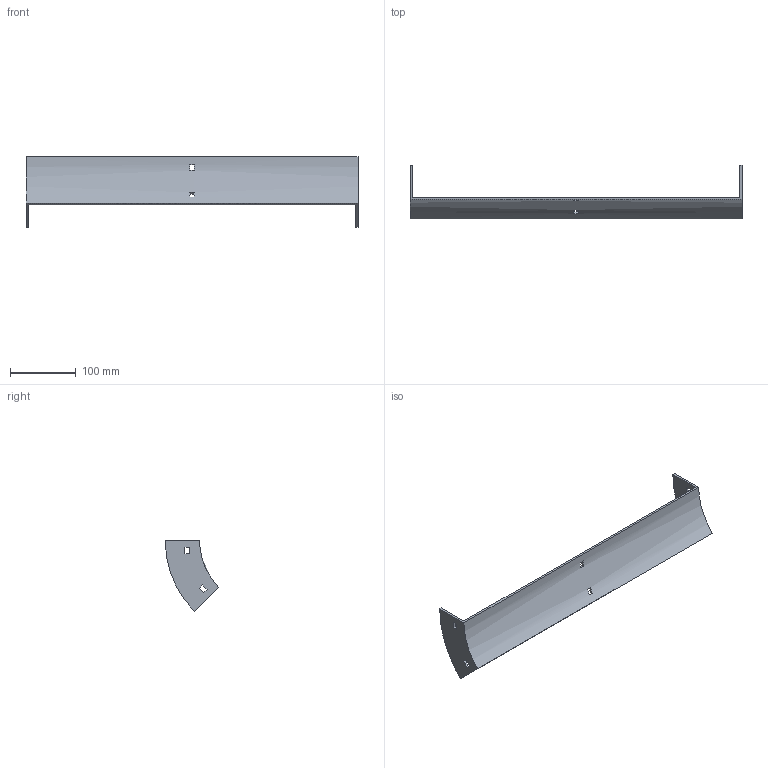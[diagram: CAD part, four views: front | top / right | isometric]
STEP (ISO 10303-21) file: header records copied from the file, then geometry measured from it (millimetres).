
FILE_DESCRIPTION (( 'STEP AP214' ), '1' );
FILE_NAME ('34B1B500.step', '2025-02-21T09:28:33', ( '' ), ( '' ), 'SwSTEP 2.0', 'SolidWorks 2023', '' );
FILE_SCHEMA (( 'AUTOMOTIVE_DESIGN' ));
Length unit declared in the file: millimetre
Products named in the file (1): 34B1B500
Bounding box: 504 x 81.29 x 107.48 mm (x, y, z)
Volume: 173637.2 mm3; surface area: 104950.4 mm2
Topology: 1 solids, 1 shells, 34 faces, 96 edges, 64 vertices
Faces by surface type: plane 30, cylinder 4
Entity records: 1143 total; most frequent: CARTESIAN_POINT 195, ORIENTED_EDGE 192, DIRECTION 182, EDGE_CURVE 96, VECTOR 80, LINE 80, VERTEX_POINT 64, AXIS2_PLACEMENT_3D 51
